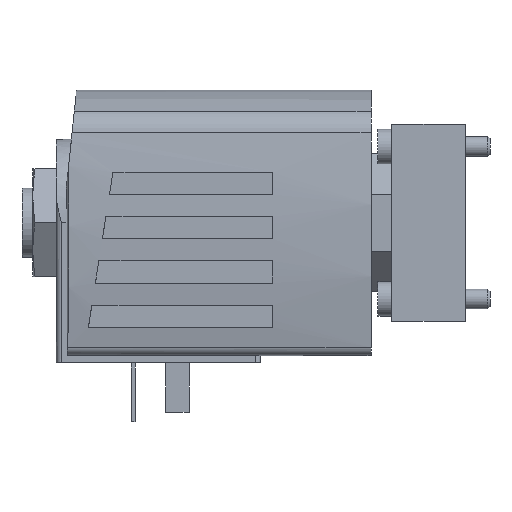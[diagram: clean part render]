
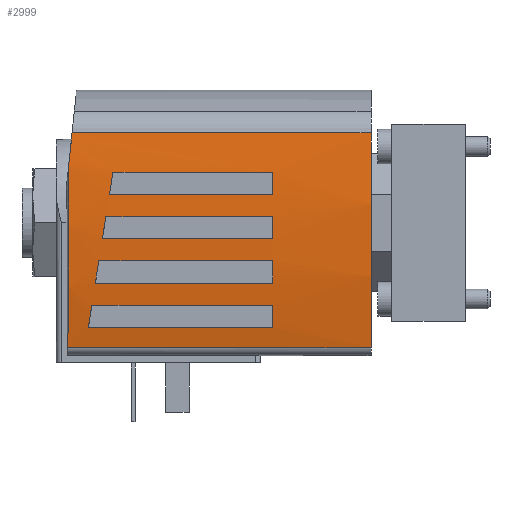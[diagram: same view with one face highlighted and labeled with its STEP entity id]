
A CAD part, left-side view. The second image highlights one B-rep face of the part: STEP entity #2999.
In plain terms, the highlighted cylindrical face has radius 130 mm (diameter 260 mm), a partial arc.
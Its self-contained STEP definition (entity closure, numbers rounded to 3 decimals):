
#48=ELLIPSE('',#3183,130.497,130.);
#49=ELLIPSE('',#3185,131.628,130.);
#50=ELLIPSE('',#3187,131.628,130.);
#51=ELLIPSE('',#3190,130.716,130.);
#52=ELLIPSE('',#3191,131.628,130.);
#53=ELLIPSE('',#3193,131.628,130.);
#81=CYLINDRICAL_SURFACE('',#3184,130.);
#123=CIRCLE('',#3186,130.);
#124=CIRCLE('',#3188,130.);
#125=CIRCLE('',#3189,130.);
#126=CIRCLE('',#3192,130.);
#127=CIRCLE('',#3194,130.);
#257=ORIENTED_EDGE('',*,*,#877,.F.);
#258=ORIENTED_EDGE('',*,*,#878,.F.);
#259=ORIENTED_EDGE('',*,*,#879,.F.);
#260=ORIENTED_EDGE('',*,*,#880,.F.);
#261=ORIENTED_EDGE('',*,*,#881,.F.);
#262=ORIENTED_EDGE('',*,*,#882,.F.);
#263=ORIENTED_EDGE('',*,*,#883,.F.);
#264=ORIENTED_EDGE('',*,*,#884,.F.);
#265=ORIENTED_EDGE('',*,*,#875,.F.);
#266=ORIENTED_EDGE('',*,*,#868,.T.);
#267=ORIENTED_EDGE('',*,*,#885,.T.);
#268=ORIENTED_EDGE('',*,*,#886,.F.);
#269=ORIENTED_EDGE('',*,*,#887,.F.);
#270=ORIENTED_EDGE('',*,*,#888,.F.);
#271=ORIENTED_EDGE('',*,*,#889,.F.);
#272=ORIENTED_EDGE('',*,*,#890,.F.);
#273=ORIENTED_EDGE('',*,*,#891,.F.);
#274=ORIENTED_EDGE('',*,*,#892,.F.);
#275=ORIENTED_EDGE('',*,*,#893,.F.);
#276=ORIENTED_EDGE('',*,*,#894,.F.);
#277=ORIENTED_EDGE('',*,*,#895,.F.);
#868=EDGE_CURVE('',#1179,#1178,#1395,.T.);
#875=EDGE_CURVE('',#1179,#1184,#48,.T.);
#877=EDGE_CURVE('',#1185,#1186,#49,.T.);
#878=EDGE_CURVE('',#1187,#1185,#1399,.F.);
#879=EDGE_CURVE('',#1188,#1187,#123,.T.);
#880=EDGE_CURVE('',#1186,#1188,#1400,.T.);
#881=EDGE_CURVE('',#1189,#1190,#1401,.T.);
#882=EDGE_CURVE('',#1191,#1189,#50,.T.);
#883=EDGE_CURVE('',#1192,#1191,#1402,.F.);
#884=EDGE_CURVE('',#1190,#1192,#124,.T.);
#885=EDGE_CURVE('',#1178,#1193,#125,.T.);
#886=EDGE_CURVE('',#1194,#1193,#1403,.T.);
#887=EDGE_CURVE('',#1184,#1194,#51,.T.);
#888=EDGE_CURVE('',#1195,#1196,#52,.T.);
#889=EDGE_CURVE('',#1197,#1195,#1404,.F.);
#890=EDGE_CURVE('',#1198,#1197,#126,.T.);
#891=EDGE_CURVE('',#1196,#1198,#1405,.T.);
#892=EDGE_CURVE('',#1199,#1200,#53,.T.);
#893=EDGE_CURVE('',#1201,#1199,#1406,.F.);
#894=EDGE_CURVE('',#1202,#1201,#127,.T.);
#895=EDGE_CURVE('',#1200,#1202,#1407,.T.);
#1178=VERTEX_POINT('',#4251);
#1179=VERTEX_POINT('',#4253);
#1184=VERTEX_POINT('',#4267);
#1185=VERTEX_POINT('',#4271);
#1186=VERTEX_POINT('',#4272);
#1187=VERTEX_POINT('',#4274);
#1188=VERTEX_POINT('',#4276);
#1189=VERTEX_POINT('',#4279);
#1190=VERTEX_POINT('',#4280);
#1191=VERTEX_POINT('',#4282);
#1192=VERTEX_POINT('',#4284);
#1193=VERTEX_POINT('',#4287);
#1194=VERTEX_POINT('',#4289);
#1195=VERTEX_POINT('',#4292);
#1196=VERTEX_POINT('',#4293);
#1197=VERTEX_POINT('',#4295);
#1198=VERTEX_POINT('',#4297);
#1199=VERTEX_POINT('',#4300);
#1200=VERTEX_POINT('',#4301);
#1201=VERTEX_POINT('',#4303);
#1202=VERTEX_POINT('',#4305);
#1395=LINE('',#4252,#1589);
#1399=LINE('',#4273,#1593);
#1400=LINE('',#4277,#1594);
#1401=LINE('',#4278,#1595);
#1402=LINE('',#4283,#1596);
#1403=LINE('',#4288,#1597);
#1404=LINE('',#4294,#1598);
#1405=LINE('',#4298,#1599);
#1406=LINE('',#4302,#1600);
#1407=LINE('',#4306,#1601);
#1589=VECTOR('',#3491,1000.);
#1593=VECTOR('',#3513,1000.);
#1594=VECTOR('',#3516,1000.);
#1595=VECTOR('',#3517,1000.);
#1596=VECTOR('',#3520,1000.);
#1597=VECTOR('',#3525,1000.);
#1598=VECTOR('',#3530,1000.);
#1599=VECTOR('',#3533,1000.);
#1600=VECTOR('',#3536,1000.);
#1601=VECTOR('',#3539,1000.);
#1762=EDGE_LOOP('',(#257,#258,#259,#260));
#1763=EDGE_LOOP('',(#261,#262,#263,#264));
#1764=EDGE_LOOP('',(#265,#266,#267,#268,#269));
#1765=EDGE_LOOP('',(#270,#271,#272,#273));
#1766=EDGE_LOOP('',(#274,#275,#276,#277));
#1990=FACE_BOUND('',#1762,.T.);
#1991=FACE_BOUND('',#1763,.T.);
#1992=FACE_BOUND('',#1764,.T.);
#1993=FACE_BOUND('',#1765,.T.);
#1994=FACE_BOUND('',#1766,.T.);
#2999=ADVANCED_FACE('',(#1990,#1991,#1992,#1993,#1994),#81,.T.);
#3183=AXIS2_PLACEMENT_3D('',#4266,#3506,#3507);
#3184=AXIS2_PLACEMENT_3D('',#4269,#3509,#3510);
#3185=AXIS2_PLACEMENT_3D('',#4270,#3511,#3512);
#3186=AXIS2_PLACEMENT_3D('',#4275,#3514,#3515);
#3187=AXIS2_PLACEMENT_3D('',#4281,#3518,#3519);
#3188=AXIS2_PLACEMENT_3D('',#4285,#3521,#3522);
#3189=AXIS2_PLACEMENT_3D('',#4286,#3523,#3524);
#3190=AXIS2_PLACEMENT_3D('',#4290,#3526,#3527);
#3191=AXIS2_PLACEMENT_3D('',#4291,#3528,#3529);
#3192=AXIS2_PLACEMENT_3D('',#4296,#3531,#3532);
#3193=AXIS2_PLACEMENT_3D('',#4299,#3534,#3535);
#3194=AXIS2_PLACEMENT_3D('',#4304,#3537,#3538);
#3491=DIRECTION('',(0.,-1.,0.));
#3506=DIRECTION('',(0.,0.996,0.087));
#3507=DIRECTION('',(0.,-0.087,0.996));
#3509=DIRECTION('',(0.,-1.,0.));
#3510=DIRECTION('',(0.,0.,-1.));
#3511=DIRECTION('',(-0.157,-0.988,0.));
#3512=DIRECTION('',(0.988,-0.157,0.));
#3513=DIRECTION('',(0.,-1.,0.));
#3514=DIRECTION('',(0.,1.,0.));
#3515=DIRECTION('',(0.,0.,1.));
#3516=DIRECTION('',(0.,-1.,0.));
#3517=DIRECTION('',(0.,-1.,0.));
#3518=DIRECTION('',(-0.157,-0.988,0.));
#3519=DIRECTION('',(0.988,-0.157,0.));
#3520=DIRECTION('',(0.,-1.,0.));
#3521=DIRECTION('',(0.,1.,0.));
#3522=DIRECTION('',(0.,0.,1.));
#3523=DIRECTION('',(0.,1.,0.));
#3524=DIRECTION('',(1.,0.,0.));
#3525=DIRECTION('',(0.,-1.,0.));
#3526=DIRECTION('',(0.105,0.995,0.));
#3527=DIRECTION('',(0.995,-0.105,0.));
#3528=DIRECTION('',(-0.157,-0.988,0.));
#3529=DIRECTION('',(0.988,-0.157,0.));
#3530=DIRECTION('',(0.,-1.,0.));
#3531=DIRECTION('',(0.,1.,0.));
#3532=DIRECTION('',(0.,0.,1.));
#3533=DIRECTION('',(0.,-1.,0.));
#3534=DIRECTION('',(-0.157,-0.988,0.));
#3535=DIRECTION('',(0.988,-0.157,0.));
#3536=DIRECTION('',(0.,-1.,0.));
#3537=DIRECTION('',(0.,1.,0.));
#3538=DIRECTION('',(0.,0.,1.));
#3539=DIRECTION('',(0.,-1.,0.));
#4251=CARTESIAN_POINT('',(-25.391,-39.4,18.646));
#4252=CARTESIAN_POINT('',(-25.391,22.6,18.646));
#4253=CARTESIAN_POINT('',(-25.391,22.281,18.646));
#4266=CARTESIAN_POINT('',(0.,33.435,-108.85));
#4267=CARTESIAN_POINT('',(11.681,22.108,20.624));
#4269=CARTESIAN_POINT('',(0.,22.6,-108.85));
#4270=CARTESIAN_POINT('',(0.,14.727,-108.85));
#4271=CARTESIAN_POINT('',(1.25,14.529,21.144));
#4272=CARTESIAN_POINT('',(-3.25,15.243,21.109));
#4273=CARTESIAN_POINT('',(1.25,22.6,21.144));
#4274=CARTESIAN_POINT('',(1.25,-19.4,21.144));
#4275=CARTESIAN_POINT('',(0.,-19.4,-108.85));
#4276=CARTESIAN_POINT('',(-3.25,-19.4,21.109));
#4277=CARTESIAN_POINT('',(-3.25,22.6,21.109));
#4278=CARTESIAN_POINT('',(-21.25,22.6,19.401));
#4279=CARTESIAN_POINT('',(-21.25,18.1,19.401));
#4280=CARTESIAN_POINT('',(-21.25,-19.4,19.401));
#4281=CARTESIAN_POINT('',(0.,14.727,-108.85));
#4282=CARTESIAN_POINT('',(-16.75,17.386,20.066));
#4283=CARTESIAN_POINT('',(-16.75,22.6,20.066));
#4284=CARTESIAN_POINT('',(-16.75,-19.4,20.066));
#4285=CARTESIAN_POINT('',(0.,-19.4,-108.85));
#4286=CARTESIAN_POINT('',(0.,-39.4,-108.85));
#4287=CARTESIAN_POINT('',(18.286,-39.4,19.857));
#4288=CARTESIAN_POINT('',(18.286,22.6,19.857));
#4289=CARTESIAN_POINT('',(18.286,21.414,19.857));
#4290=CARTESIAN_POINT('',(0.,23.336,-108.85));
#4291=CARTESIAN_POINT('',(0.,14.727,-108.85));
#4292=CARTESIAN_POINT('',(-7.75,15.957,20.919));
#4293=CARTESIAN_POINT('',(-12.25,16.671,20.572));
#4294=CARTESIAN_POINT('',(-7.75,22.6,20.919));
#4295=CARTESIAN_POINT('',(-7.75,-19.4,20.919));
#4296=CARTESIAN_POINT('',(0.,-19.4,-108.85));
#4297=CARTESIAN_POINT('',(-12.25,-19.4,20.572));
#4298=CARTESIAN_POINT('',(-12.25,22.6,20.572));
#4299=CARTESIAN_POINT('',(0.,14.727,-108.85));
#4300=CARTESIAN_POINT('',(10.25,13.1,20.745));
#4301=CARTESIAN_POINT('',(5.75,13.814,21.023));
#4302=CARTESIAN_POINT('',(10.25,22.6,20.745));
#4303=CARTESIAN_POINT('',(10.25,-19.4,20.745));
#4304=CARTESIAN_POINT('',(0.,-19.4,-108.85));
#4305=CARTESIAN_POINT('',(5.75,-19.4,21.023));
#4306=CARTESIAN_POINT('',(5.75,22.6,21.023));
